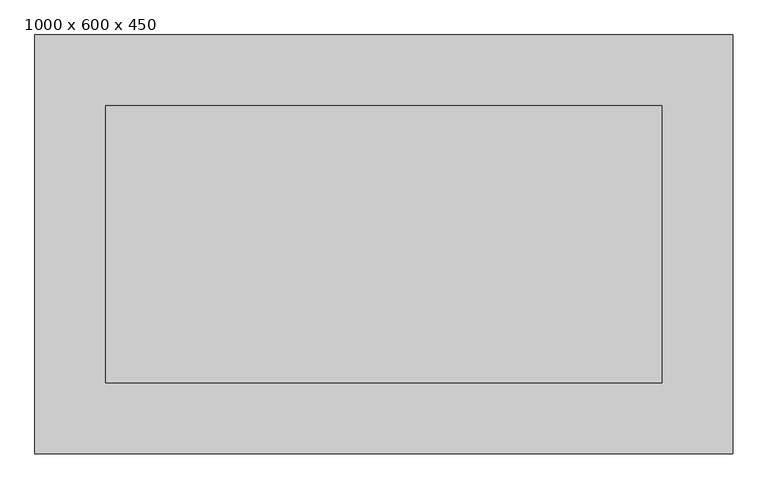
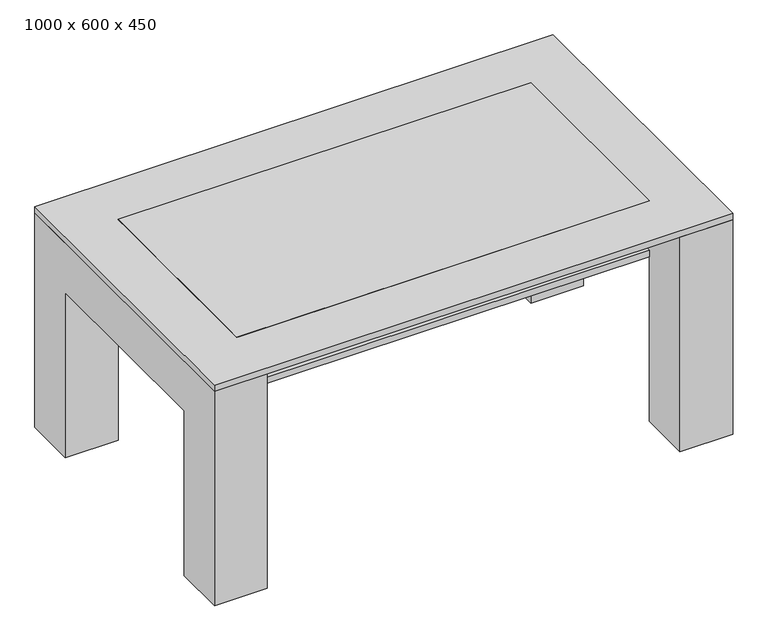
"""IFC4 building model written with IfcOpenShell, lengths in millimetres: furniture geometry, Tisch-05 Glasausschnitt : 1000 x 600 x 450."""

import ifcopenshell
import ifcopenshell.guid

model = None  # the IFC model being written
_history = None  # IfcOwnerHistory: only IFC2X3 demands one
_inside = {}  # id of a spatial element -> (the spatial element, [elements in it])
_under = {}  # id of a project, library or spatial element -> (it, [spatial elements below it])
_declared = {}  # id of a project -> (the project, [libraries it declares])
_typed = {}  # id of a type object -> (the type object, [elements of that type])
_made_of = {}  # id of a material, layer set ... -> (it, [elements and type objects made of it])


def new_model(schema):
    """Start an empty IFC model of exactly this schema.

    Asked for "IFC4X3", IfcOpenShell would pick the latest addendum, in which some entities
    have other attributes; the version numbers below select the first issue.
    IFC2X3 requires an IfcOwnerHistory on every rooted entity: one is made here for all.
    """
    global model, _history
    if schema == "IFC4X3":
        model = ifcopenshell.file(schema_version=(4, 3, 0, 0))
    else:
        model = ifcopenshell.file(schema=schema)
    _inside.clear()
    _under.clear()
    _declared.clear()
    _typed.clear()
    _made_of.clear()
    _history = None
    if model.schema == "IFC2X3":
        org = make("IfcOrganization", Name="unknown")
        user = make(
            "IfcPersonAndOrganization",
            ThePerson=make("IfcPerson", FamilyName="unknown"),
            TheOrganization=org,
        )
        app = make(
            "IfcApplication",
            ApplicationDeveloper=org,
            Version="unknown",
            ApplicationFullName="unknown",
            ApplicationIdentifier="unknown",
        )
        _history = make(
            "IfcOwnerHistory",
            OwningUser=user,
            OwningApplication=app,
            ChangeAction="ADDED",
            CreationDate=0,
        )
    return model


def make(cls, **values):
    """One entity of the class cls with the attributes given. An attribute that is None is left unset."""
    return model.create_entity(
        cls, **{name: value for name, value in values.items() if value is not None}
    )


def rooted(cls, **values):
    """An entity with a GlobalId (a new one), such as an element, a storey or a relation."""
    return make(cls, GlobalId=ifcopenshell.guid.new(), OwnerHistory=_history, **values)


def si_unit(unit_type, name, prefix=None):
    """IfcSIUnit, for example si_unit("LENGTHUNIT", "METRE", prefix="MILLI")."""
    return make("IfcSIUnit", UnitType=unit_type, Prefix=prefix, Name=name)


def assignment(units):
    """IfcUnitAssignment: the units of a project."""
    return None if units is None else make("IfcUnitAssignment", Units=units)


def point(xyz):
    """IfcCartesianPoint."""
    return None if xyz is None else make("IfcCartesianPoint", Coordinates=xyz)


def direction(xyz):
    """IfcDirection."""
    return None if xyz is None else make("IfcDirection", DirectionRatios=xyz)


def frame(location, z_axis=None, x_axis=None):
    """IfcAxis2Placement3D, a coordinate frame: its origin and axes. An axis left out is left unset."""
    return make(
        "IfcAxis2Placement3D",
        Location=point(location),
        Axis=direction(z_axis),
        RefDirection=direction(x_axis),
    )


def origin():
    """The frame at (0, 0, 0) with its axes left unset."""
    return frame((0.0, 0.0, 0.0))


def place(relative_to, where):
    """IfcLocalPlacement: puts the frame where relative to a parent placement (None: the world)."""
    return make(
        "IfcLocalPlacement", PlacementRelTo=relative_to, RelativePlacement=where
    )


def context(
    kind, dimensions, precision=None, world=None, true_north=None, identifier=None
):
    """IfcGeometricRepresentationContext, for example the 3D "Model" context."""
    return make(
        "IfcGeometricRepresentationContext",
        ContextIdentifier=identifier,
        ContextType=kind,
        CoordinateSpaceDimension=dimensions,
        Precision=precision,
        WorldCoordinateSystem=world,
        TrueNorth=true_north,
    )


def project(units=None, contexts=None):
    """IfcProject with its units and contexts."""
    return rooted(
        "IfcProject",
        Name="project",
        RepresentationContexts=contexts,
        UnitsInContext=assignment(units),
    )


def spatial(cls, under=None, at=None, **own):
    """A site, building, storey or space (cls), placed at a placement, below another one or the project."""
    s = rooted(cls, ObjectPlacement=at, **own)
    if under is not None:
        _under.setdefault(under.id(), (under, []))[1].append(s)
    return s


def polyline(points):
    """IfcPolyline through the points."""
    return make("IfcPolyline", Points=[point(p) for p in points])


def outline(outer, holes=None, kind="AREA"):
    """IfcArbitraryClosedProfileDef: a profile drawn as a closed curve; with holes, ...WithVoids."""
    if holes is None:
        return make("IfcArbitraryClosedProfileDef", ProfileType=kind, OuterCurve=outer)
    return make(
        "IfcArbitraryProfileDefWithVoids",
        ProfileType=kind,
        OuterCurve=outer,
        InnerCurves=holes,
    )


def extrude(swept, where, along, depth):
    """IfcExtrudedAreaSolid: the profile swept, set in the frame where, extruded along a direction by depth."""
    return make(
        "IfcExtrudedAreaSolid",
        SweptArea=swept,
        Position=where,
        ExtrudedDirection=direction(along),
        Depth=depth,
    )


def shape(context_of_items, identifier, shape_type, items):
    """IfcShapeRepresentation: the items that make up one representation, for example the "Body"."""
    return make(
        "IfcShapeRepresentation",
        ContextOfItems=context_of_items,
        RepresentationIdentifier=identifier,
        RepresentationType=shape_type,
        Items=items,
    )


def source(mapping_origin, context_of_items, identifier, shape_type, items):
    """IfcRepresentationMap: a shape defined once, which mapped items show again and again."""
    return make(
        "IfcRepresentationMap",
        MappingOrigin=mapping_origin,
        MappedRepresentation=shape(context_of_items, identifier, shape_type, items),
    )


def transform(
    local_origin,
    x_axis=None,
    y_axis=None,
    z_axis=None,
    scale=None,
    scale2=None,
    scale3=None,
    uniform=True,
):
    """IfcCartesianTransformationOperator3D, or its non-uniform kind. x_axis, y_axis, z_axis: its Axis1, 2, 3."""
    if uniform:
        return make(
            "IfcCartesianTransformationOperator3D",
            Axis1=direction(x_axis),
            Axis2=direction(y_axis),
            LocalOrigin=point(local_origin),
            Scale=scale,
            Axis3=direction(z_axis),
        )
    return make(
        "IfcCartesianTransformationOperator3DnonUniform",
        Axis1=direction(x_axis),
        Axis2=direction(y_axis),
        LocalOrigin=point(local_origin),
        Scale=scale,
        Axis3=direction(z_axis),
        Scale2=scale2,
        Scale3=scale3,
    )


def mapped(mapping_source, mapping_target):
    """IfcMappedItem: shows the shape of a source again, moved by a transform."""
    return make(
        "IfcMappedItem", MappingSource=mapping_source, MappingTarget=mapping_target
    )


def made_of(thing, what):
    """Note that an element or type object is made of a material, layer set ...; save() writes the relation."""
    if what is not None:
        _made_of.setdefault(what.id(), (what, []))[1].append(thing)
    return thing


def element(
    cls,
    number,
    at=None,
    inside=None,
    cuts=None,
    type_object=None,
    material=None,
    context=None,
    identifier="Body",
    shape_type=None,
    held_by="IfcProductDefinitionShape",
    body=None,
    shapes=None,
    **own,
):
    """One element of the class cls, such as IfcWall. Its Tag is "e" and its number.

    at: its placement. inside: the storey or other place that contains it. cuts: it is an
    opening in that element (IfcRelVoidsElement). A single representation is given by context,
    identifier, shape_type and body (its items); several are given by shapes. held_by: the class
    of the entity that holds the representations. save() writes the other relations.
    """
    e = rooted(cls, Tag="e%d" % number, ObjectPlacement=at, **own)
    if body is not None:
        shapes = [shape(context, identifier, shape_type, body)]
    if shapes is not None:
        e.Representation = make(held_by, Representations=shapes)
    if inside is not None:
        _inside.setdefault(inside.id(), (inside, []))[1].append(e)
    if cuts is not None:
        rooted(
            "IfcRelVoidsElement", RelatingBuildingElement=cuts, RelatedOpeningElement=e
        )
    if type_object is not None:
        _typed.setdefault(type_object.id(), (type_object, []))[1].append(e)
    return made_of(e, material)


def aggregate(whole, parts):
    """IfcRelAggregates: a whole, such as a stair, and the parts it consists of."""
    return rooted("IfcRelAggregates", RelatingObject=whole, RelatedObjects=parts)


def save(model, path):
    """Write the relations noted so far, then the file.

    IfcRelAggregates (storeys below a building ...), IfcRelContainedInSpatialStructure (elements
    in a storey), IfcRelDefinesByType, IfcRelAssociatesMaterial and IfcRelDeclares: one each for
    every whole, place, type object, material and project.
    """
    for whole, parts in _under.values():
        aggregate(whole, parts)
    for where, things in _inside.values():
        rooted(
            "IfcRelContainedInSpatialStructure",
            RelatedElements=things,
            RelatingStructure=where,
        )
    for kind, things in _typed.values():
        rooted("IfcRelDefinesByType", RelatedObjects=things, RelatingType=kind)
    for what, things in _made_of.values():
        rooted("IfcRelAssociatesMaterial", RelatedObjects=things, RelatingMaterial=what)
    for by, libraries in _declared.values():
        rooted("IfcRelDeclares", RelatingContext=by, RelatedDefinitions=libraries)
    model.write(path)


def furniture_1000_x_600_x_450_2671d195(model_context):
    return source(origin(), model_context, "Body", "SweptSolid", [
        extrude(outline(polyline([(416.6657667, 293.6110778), (416.6657667, -103.1889222), (-380.1342333, -103.1889222), (-380.1342333, 293.6110778), (416.6657667, 293.6110778)])), frame((0.0, 0.0, 437.3), z_axis=(0.0, 0.0, 1.0), x_axis=(1.0, 0.0, 0.0)), (0.0, 0.0, 1.0), 12.7),
        extrude(outline(polyline([(518.2657667, 395.2110778), (518.2657667, -204.7889222), (-481.7342333, -204.7889222), (-481.7342333, 395.2110778), (518.2657667, 395.2110778)]), holes=[polyline([(416.6657667, 293.6110778), (-380.1342333, 293.6110778), (-380.1342333, -103.1889222), (416.6657667, -103.1889222), (416.6657667, 293.6110778)])]), frame((0.0, 0.0, 437.3), z_axis=(0.0, 0.0, 1.0), x_axis=(1.0, 0.0, 0.0)), (0.0, 0.0, 1.0), 12.7),
        extrude(outline(polyline([(416.6657667, 293.6110778), (416.6657667, -103.1889222), (-380.1342333, -103.1889222), (-380.1342333, 293.6110778), (416.6657667, 293.6110778)])), frame((0.0, 0.0, 335.7), z_axis=(0.0, 0.0, 1.0), x_axis=(1.0, 0.0, 0.0)), (0.0, 0.0, 1.0), 12.7),
        extrude(outline(polyline([(395.2110778, 0.0), (293.6110778, 0.0), (293.6110778, 335.7), (-103.1889222, 335.7), (-103.1889222, 0.0), (-204.7889222, 0.0), (-204.7889222, 437.3), (395.2110778, 437.3), (395.2110778, 0.0)])), frame((416.6657667, 0.0, 0.0), z_axis=(1.0, 0.0, 0.0), x_axis=(0.0, 1.0, 0.0)), (0.0, 0.0, 1.0), 101.6),
        extrude(outline(polyline([(395.2110778, 437.3), (395.2110778, 0.0), (293.6110778, 0.0), (293.6110778, 335.7), (-103.1889222, 335.7), (-103.1889222, 0.0), (-204.7889222, 0.0), (-204.7889222, 437.3), (395.2110778, 437.3)])), frame((-481.7342333, 0.0, 0.0), z_axis=(1.0, 0.0, 0.0), x_axis=(0.0, 1.0, 0.0)), (0.0, 0.0, 1.0), 101.6),
    ])


if __name__ == "__main__":
    model = new_model("IFC4")
    model_context = context("Model", 3, world=origin())
    ifc_project = project(units=[si_unit("LENGTHUNIT", "METRE", prefix="MILLI")], contexts=[model_context])
    site = spatial("IfcSite", under=ifc_project)
    building = spatial("IfcBuilding", under=site)
    placement = place(None, origin())
    furniture_1000_x_600_x_450_shape = furniture_1000_x_600_x_450_2671d195(model_context)
    element("IfcFurniture", 1, ObjectType="Tisch-05 Glasausschnitt : 1000 x 600 x 450", at=placement, inside=building, context=model_context, shape_type="MappedRepresentation", body=[
        mapped(furniture_1000_x_600_x_450_shape, transform((0.0, 0.0, 0.0), x_axis=(1.0, 0.0, 0.0), y_axis=(0.0, 1.0, 0.0), z_axis=(0.0, 0.0, 1.0))),
    ])
    save(model, "model.ifc")
